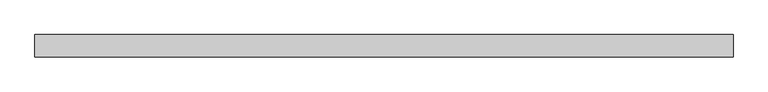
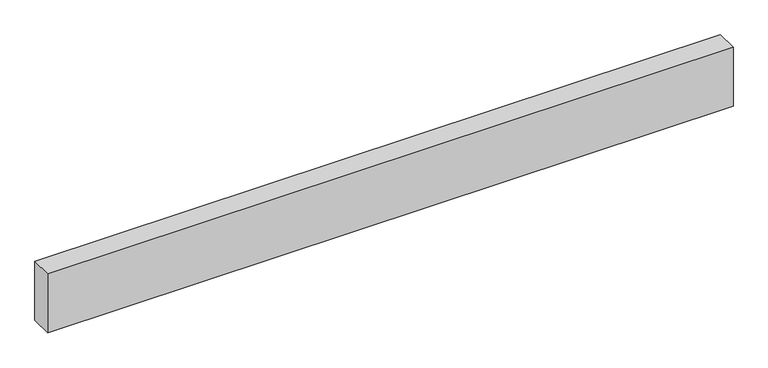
"""IFC4 building model written with IfcOpenShell, lengths in millimetres: proxy geometry."""

from ifc_helpers import new_model, si_unit, frame, origin, place, context, project, spatial, polyline, outline, extrude, source, transform, mapped, element, save


def structural_framing_6112a48c(model_context):
    return source(origin(), model_context, "Body", "SweptSolid", [
        extrude(outline(polyline([(-2197.7984075, -70.05), (-2197.8015925, 69.95), (2197.7984075, 70.05), (2197.8015925, -69.95), (-2197.7984075, -70.05)])), frame((0.0, 0.0, -400.0), z_axis=(0.0, 0.0, 1.0), x_axis=(1.0, 0.0, 0.0)), (0.0, 0.0, 1.0), 400.0),
    ])


if __name__ == "__main__":
    model = new_model("IFC4")
    model_context = context("Model", 3, world=origin())
    ifc_project = project(units=[si_unit("LENGTHUNIT", "METRE", prefix="MILLI")], contexts=[model_context])
    site = spatial("IfcSite", under=ifc_project)
    building = spatial("IfcBuilding", under=site)
    placement = place(None, origin())
    structural_framing_shape = structural_framing_6112a48c(model_context)
    element("IfcBuildingElementProxy", 1, Name="Structural Framing", at=placement, inside=building, context=model_context, shape_type="MappedRepresentation", body=[
        mapped(structural_framing_shape, transform((0.0, 0.0, 0.0), x_axis=(1.0, 0.0, 0.0), y_axis=(0.0, 1.0, 0.0), z_axis=(0.0, 0.0, 1.0))),
    ])
    save(model, "model.ifc")
